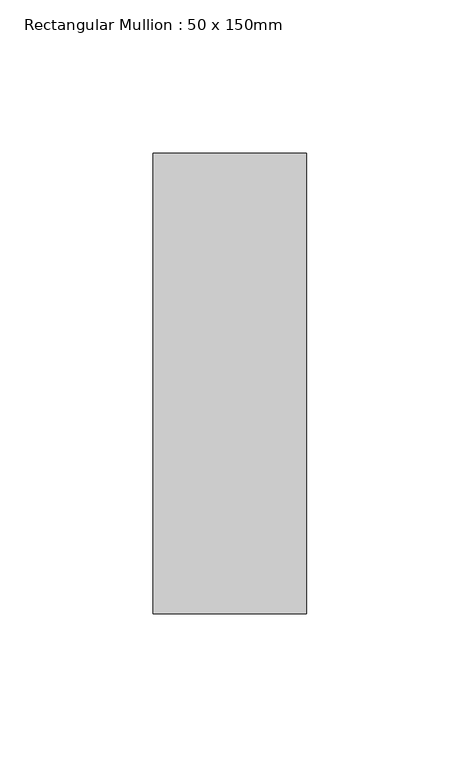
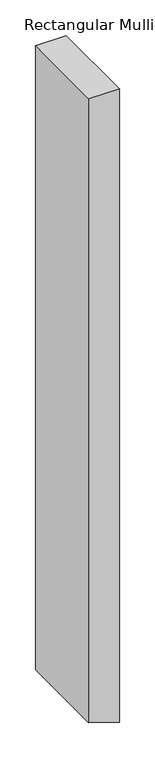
"""IFC4 building model written with IfcOpenShell, lengths in millimetres: member geometry, Rectangular Mullion : 50 x 150mm."""

from ifc_helpers import new_model, si_unit, frame, origin, place, context, project, spatial, polyline, outline, extrude, source, transform, mapped, element, save


def rectangular_mullion_50_x_150mm_96b90bf1(model_context):
    return source(origin(), model_context, "Body", "SweptSolid", [
        extrude(outline(polyline([(0.0, 25.0), (0.0, -25.0), (-1071.4703674, -25.0), (-1085.0688816, 15.8072912), (-1088.1322357, 25.0), (0.0, 25.0)])), frame((0.0, -75.0, 0.0), z_axis=(0.0, 1.0, 0.0), x_axis=(0.0, 0.0, 1.0)), (0.0, 0.0, 1.0), 150.0),
    ])


if __name__ == "__main__":
    model = new_model("IFC4")
    model_context = context("Model", 3, world=origin())
    ifc_project = project(units=[si_unit("LENGTHUNIT", "METRE", prefix="MILLI")], contexts=[model_context])
    site = spatial("IfcSite", under=ifc_project)
    building = spatial("IfcBuilding", under=site)
    placement = place(None, origin())
    rectangular_mullion_50_x_150mm_shape = rectangular_mullion_50_x_150mm_96b90bf1(model_context)
    element("IfcMember", 1, ObjectType="Rectangular Mullion : 50 x 150mm", at=placement, inside=building, context=model_context, shape_type="MappedRepresentation", body=[
        mapped(rectangular_mullion_50_x_150mm_shape, transform((0.0, 0.0, 0.0), x_axis=(1.0, 0.0, 0.0), y_axis=(0.0, 1.0, 0.0), z_axis=(0.0, 0.0, 1.0))),
    ])
    save(model, "model.ifc")
